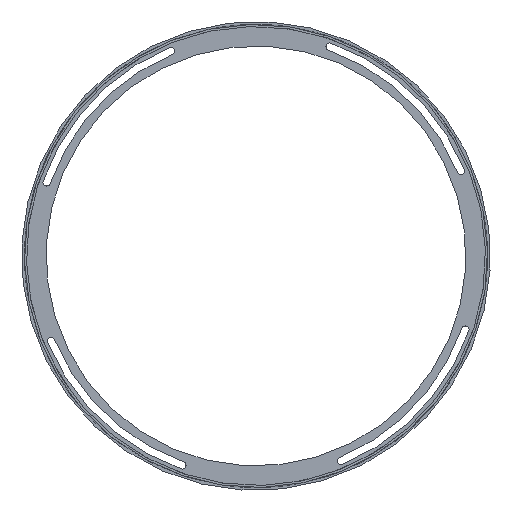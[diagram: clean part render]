
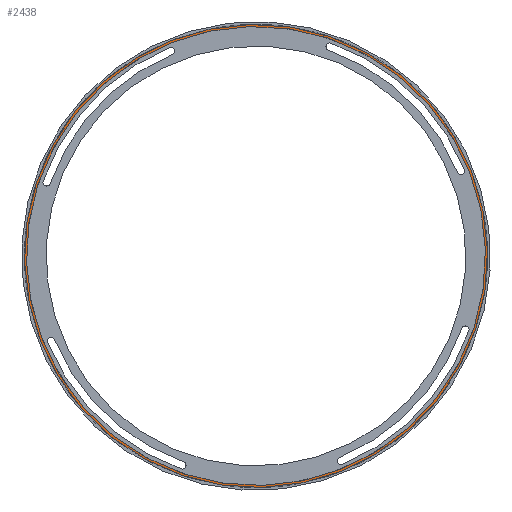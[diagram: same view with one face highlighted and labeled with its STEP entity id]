
A CAD part, front view. The second image highlights one B-rep face of the part: STEP entity #2438.
In plain terms, the highlighted planar face has unit normal (0, -1, 0).
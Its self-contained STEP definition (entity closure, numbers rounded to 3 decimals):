
#101=PLANE('',#2722);
#175=CIRCLE('',#2588,112.2);
#210=CIRCLE('',#2624,113.2);
#931=ORIENTED_EDGE('',*,*,#1101,.T.);
#932=ORIENTED_EDGE('',*,*,#1170,.T.);
#1101=EDGE_CURVE('',#1407,#1407,#175,.T.);
#1170=EDGE_CURVE('',#1476,#1476,#210,.T.);
#1407=VERTEX_POINT('',#3771);
#1476=VERTEX_POINT('',#3910);
#2124=EDGE_LOOP('',(#931));
#2125=EDGE_LOOP('',(#932));
#2278=FACE_BOUND('',#2124,.T.);
#2279=FACE_BOUND('',#2125,.T.);
#2438=ADVANCED_FACE('',(#2278,#2279),#101,.F.);
#2588=AXIS2_PLACEMENT_3D('',#3770,#3052,#3053);
#2624=AXIS2_PLACEMENT_3D('',#3909,#3158,#3159);
#2722=AXIS2_PLACEMENT_3D('',#4174,#3452,#3453);
#3052=DIRECTION('',(0.,1.,0.));
#3053=DIRECTION('',(-1.,0.,-0.028));
#3158=DIRECTION('',(0.,-1.,0.));
#3159=DIRECTION('',(-1.,0.,-0.025));
#3452=DIRECTION('',(0.,1.,0.));
#3453=DIRECTION('',(-1.,0.,-0.028));
#3770=CARTESIAN_POINT('',(0.,0.,0.));
#3771=CARTESIAN_POINT('',(-112.156,0.,-3.139));
#3909=CARTESIAN_POINT('',(0.,0.,0.));
#3910=CARTESIAN_POINT('',(-113.164,0.,-2.867));
#4174=CARTESIAN_POINT('',(0.,0.,0.));
